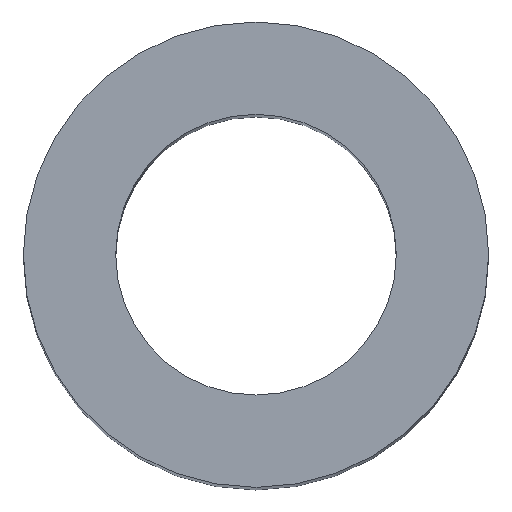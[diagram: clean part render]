
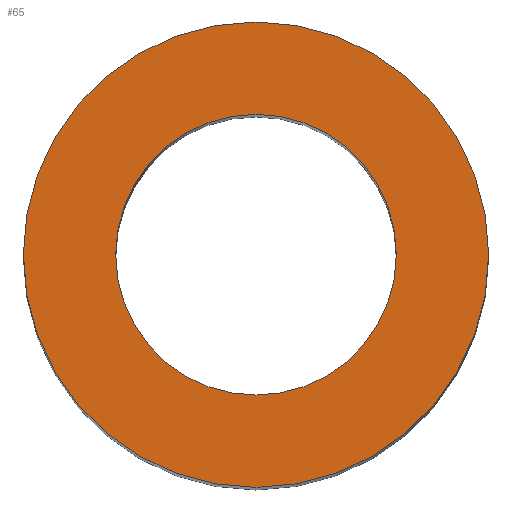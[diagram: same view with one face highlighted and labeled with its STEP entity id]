
A CAD part, top view. The second image highlights one B-rep face of the part: STEP entity #65.
In plain terms, the highlighted planar face has unit normal (0, 0, 1).
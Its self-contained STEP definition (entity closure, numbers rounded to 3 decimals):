
#3 = ORIENTED_EDGE ( 'NONE', *, *, #10, .F. ) ;
#6 = DIRECTION ( 'NONE',  ( 1., 0., 0. ) ) ;
#9 = FACE_OUTER_BOUND ( 'NONE', #84, .T. ) ;
#10 = EDGE_CURVE ( 'NONE', #82, #12, #103, .T. ) ;
#12 = VERTEX_POINT ( 'NONE', #34 ) ;
#15 = ORIENTED_EDGE ( 'NONE', *, *, #106, .T. ) ;
#24 = EDGE_LOOP ( 'NONE', ( #207, #3 ) ) ;
#29 = PLANE ( 'NONE',  #208 ) ;
#34 = CARTESIAN_POINT ( 'NONE',  ( -19., 0., 203. ) ) ;
#44 = CARTESIAN_POINT ( 'NONE',  ( -31.5, 0., 203. ) ) ;
#53 = DIRECTION ( 'NONE',  ( 1., 0., 0. ) ) ;
#57 = CARTESIAN_POINT ( 'NONE',  ( 19., 0., 203. ) ) ;
#59 = VERTEX_POINT ( 'NONE', #91 ) ;
#65 = ADVANCED_FACE ( 'NONE', ( #9, #124 ), #29, .T. ) ;
#82 = VERTEX_POINT ( 'NONE', #57 ) ;
#84 = EDGE_LOOP ( 'NONE', ( #15, #120 ) ) ;
#85 = AXIS2_PLACEMENT_3D ( 'NONE', #93, #146, #131 ) ;
#90 = DIRECTION ( 'NONE',  ( 1., 0., 0. ) ) ;
#91 = CARTESIAN_POINT ( 'NONE',  ( 31.5, 0., 203. ) ) ;
#93 = CARTESIAN_POINT ( 'NONE',  ( 0., 0., 203. ) ) ;
#96 = DIRECTION ( 'NONE',  ( 0., 0., 1. ) ) ;
#103 = CIRCLE ( 'NONE', #85, 19. ) ;
#104 = EDGE_CURVE ( 'NONE', #59, #160, #130, .T. ) ;
#106 = EDGE_CURVE ( 'NONE', #160, #59, #134, .T. ) ;
#112 = DIRECTION ( 'NONE',  ( 1., 0., 0. ) ) ;
#114 = AXIS2_PLACEMENT_3D ( 'NONE', #165, #96, #6 ) ;
#120 = ORIENTED_EDGE ( 'NONE', *, *, #104, .T. ) ;
#124 = FACE_BOUND ( 'NONE', #24, .T. ) ;
#127 = CARTESIAN_POINT ( 'NONE',  ( 0., 0., 203. ) ) ;
#128 = DIRECTION ( 'NONE',  ( 0., 0., 1. ) ) ;
#130 = CIRCLE ( 'NONE', #211, 31.5 ) ;
#131 = DIRECTION ( 'NONE',  ( 1., 0., 0. ) ) ;
#134 = CIRCLE ( 'NONE', #114, 31.5 ) ;
#146 = DIRECTION ( 'NONE',  ( 0., 0., 1. ) ) ;
#152 = CARTESIAN_POINT ( 'NONE',  ( 0., 0., 203. ) ) ;
#160 = VERTEX_POINT ( 'NONE', #44 ) ;
#165 = CARTESIAN_POINT ( 'NONE',  ( 0., 0., 203. ) ) ;
#166 = DIRECTION ( 'NONE',  ( 0., 0., 1. ) ) ;
#181 = AXIS2_PLACEMENT_3D ( 'NONE', #183, #190, #112 ) ;
#183 = CARTESIAN_POINT ( 'NONE',  ( 0., 0., 203. ) ) ;
#190 = DIRECTION ( 'NONE',  ( 0., 0., 1. ) ) ;
#193 = EDGE_CURVE ( 'NONE', #12, #82, #198, .T. ) ;
#198 = CIRCLE ( 'NONE', #181, 19. ) ;
#207 = ORIENTED_EDGE ( 'NONE', *, *, #193, .F. ) ;
#208 = AXIS2_PLACEMENT_3D ( 'NONE', #127, #166, #90 ) ;
#211 = AXIS2_PLACEMENT_3D ( 'NONE', #152, #128, #53 ) ;
